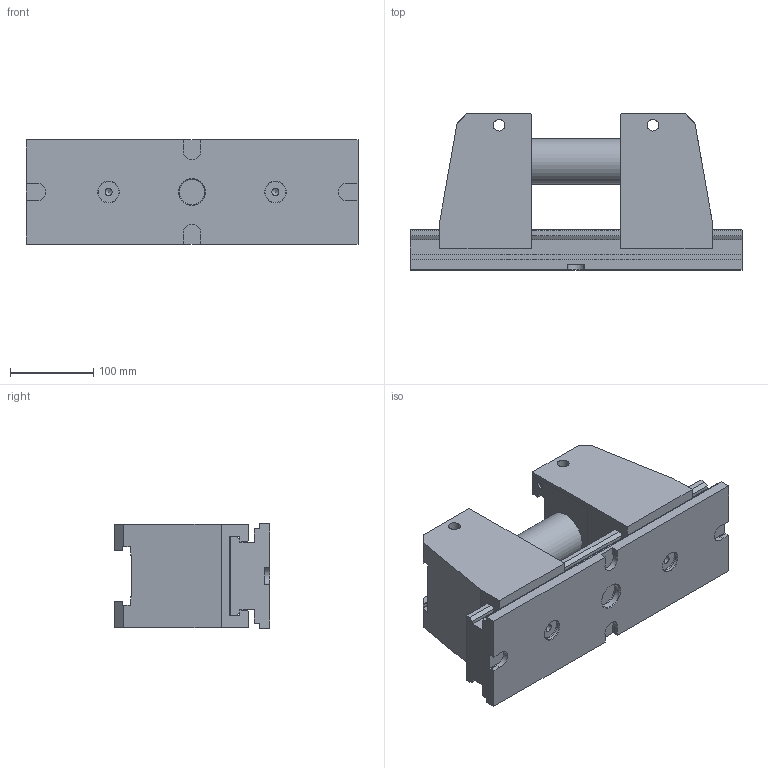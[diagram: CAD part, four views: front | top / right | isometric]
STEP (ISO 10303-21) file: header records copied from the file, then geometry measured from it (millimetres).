
FILE_DESCRIPTION (( 'STEP AP214' ), '1' );
FILE_NAME ('3D-6921868000055.STEP', '2023-03-20T08:47:43', ( '' ), ( '' ), 'SwSTEP 2.0', 'SolidWorks 2021', '' );
FILE_SCHEMA (( 'AUTOMOTIVE_DESIGN' ));
Length unit declared in the file: millimetre
Products named in the file (4): 3D-6921861000000.step; 3D-6921861001000.step; 3D-6921868000055; 3D-6921861002000.step
Assembly tree (3 placements, depth 2):
  3D-6921868000055
    3D-6921861000000.step
    3D-6921861001000.step
    3D-6921861002000.step
Bounding box: 398 x 187 x 125 mm (x, y, z)
Volume: 5453731.5 mm3; surface area: 418455.8 mm2
Topology: 3 solids, 5 shells, 1033 faces, 2657 edges, 1766 vertices
Faces by surface type: plane 618, bspline 344, cylinder 64, cone 7
Full cylindrical faces by diameter (mm): 6.8 x2, 8.5 x4, 14 x4, 14.3 x2, 25 x2, 26 x2, 30 x1, 31 x1, 55 x2
Entity records: 52338 total; most frequent: CARTESIAN_POINT 29499, ORIENTED_EDGE 5234, DIRECTION 3414, EDGE_CURVE 2617, LINE 1766, VECTOR 1766, VERTEX_POINT 1755, EDGE_LOOP 1206
